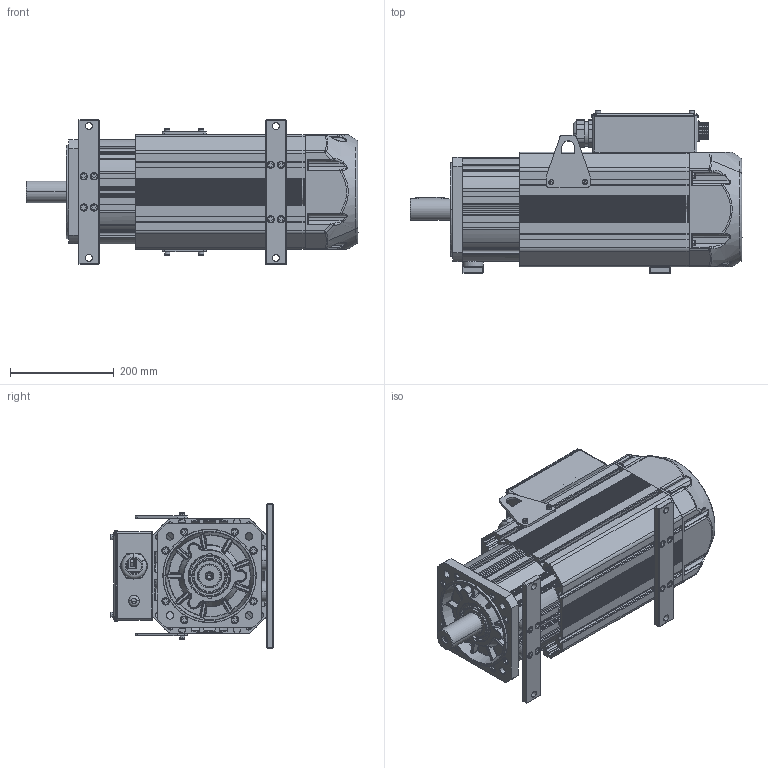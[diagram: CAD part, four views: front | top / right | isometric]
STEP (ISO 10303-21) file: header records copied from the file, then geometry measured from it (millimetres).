
FILE_DESCRIPTION((''),'2;1');
FILE_NAME('140NBZ__SW0001','2025-08-25T08:58:20',('0109502'),(''),'CREO PARAMETRIC BY PTC INC, 2019080','CREO PARAMETRIC BY PTC INC, 2019080','');
FILE_SCHEMA(('CONFIG_CONTROL_DESIGN'));
Products named in the file (1): 140NBZ__SW0001
Bounding box: 639 x 312.5 x 278.25 mm (x, y, z)
Surface area: 1927982.3 mm2 (no closed solid volume)
Topology: 0 solids, 194 shells, 3271 faces, 11463 edges, 8164 vertices
Faces by surface type: plane 1503, cylinder 1112, torus 254, bspline 192, cone 184, sphere 26
Entity records: 137381 total; most frequent: CARTESIAN_POINT 39285, DIRECTION 20775, ORIENTED_EDGE 18632, EDGE_CURVE 11443, VERTEX_POINT 8164, AXIS2_PLACEMENT_3D 7070, VECTOR 6635, LINE 6635
